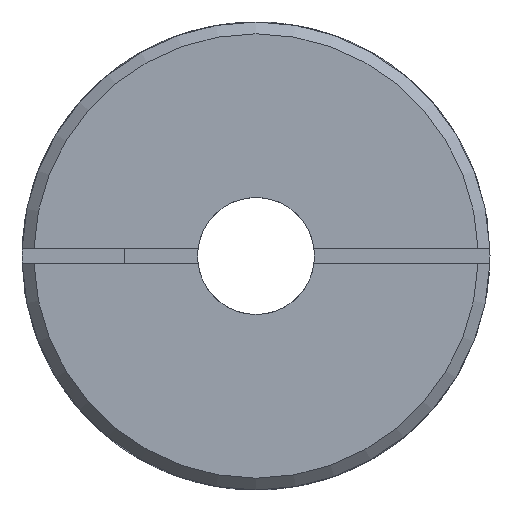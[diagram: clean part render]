
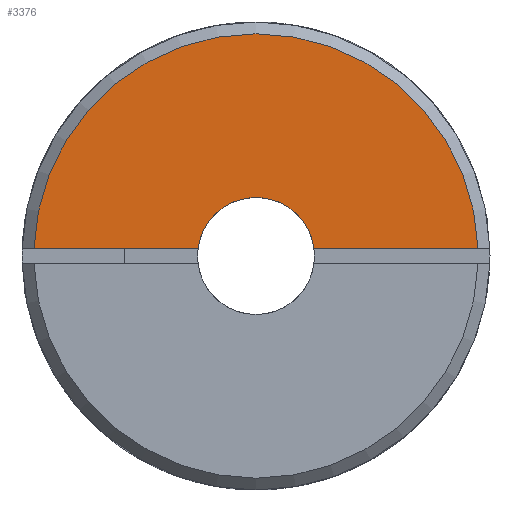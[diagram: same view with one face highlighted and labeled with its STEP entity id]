
A CAD part, left-side view. The second image highlights one B-rep face of the part: STEP entity #3376.
In plain terms, the highlighted planar face has unit normal (-1, 0, 0).
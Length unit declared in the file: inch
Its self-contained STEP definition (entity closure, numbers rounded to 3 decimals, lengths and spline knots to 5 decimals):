
#239 = VERTEX_POINT ( 'NONE', #4289 ) ;
#288 = VERTEX_POINT ( 'NONE', #3622 ) ;
#366 = VECTOR ( 'NONE', #2971, 39.37008 ) ;
#372 = CARTESIAN_POINT ( 'NONE',  ( 315.93456, 187.33162, 0. ) ) ;
#414 = CARTESIAN_POINT ( 'NONE',  ( 315.93456, 190.32051, 0.09843 ) ) ;
#717 = LINE ( 'NONE', #4222, #1406 ) ;
#789 = EDGE_CURVE ( 'NONE', #288, #239, #2023, .T. ) ;
#907 = AXIS2_PLACEMENT_3D ( 'NONE', #372, #3102, #1041 ) ;
#960 = CARTESIAN_POINT ( 'NONE',  ( 315.93456, 187.33162, 0. ) ) ;
#978 = DIRECTION ( 'NONE',  ( 0., 0., -1. ) ) ;
#1041 = DIRECTION ( 'NONE',  ( 0., 0., -1. ) ) ;
#1227 = EDGE_CURVE ( 'NONE', #4296, #2068, #1805, .T. ) ;
#1406 = VECTOR ( 'NONE', #3874, 39.37008 ) ;
#1434 = ORIENTED_EDGE ( 'NONE', *, *, #1957, .F. ) ;
#1516 = FACE_OUTER_BOUND ( 'NONE', #4066, .T. ) ;
#1639 = CARTESIAN_POINT ( 'NONE',  ( 315.93456, 184.34274, 0.09843 ) ) ;
#1643 = CARTESIAN_POINT ( 'NONE',  ( 315.93456, 184.18356, 0.09843 ) ) ;
#1724 = PLANE ( 'NONE',  #907 ) ;
#1805 = CIRCLE ( 'NONE', #2351, 2.99051 ) ;
#1957 = EDGE_CURVE ( 'NONE', #4296, #239, #2471, .T. ) ;
#2023 = CIRCLE ( 'NONE', #3053, 0.7874 ) ;
#2068 = VERTEX_POINT ( 'NONE', #414 ) ;
#2351 = AXIS2_PLACEMENT_3D ( 'NONE', #2918, #3627, #978 ) ;
#2471 = LINE ( 'NONE', #1643, #366 ) ;
#2918 = CARTESIAN_POINT ( 'NONE',  ( 315.93456, 187.33162, 0. ) ) ;
#2971 = DIRECTION ( 'NONE',  ( 0., 1., 0. ) ) ;
#3053 = AXIS2_PLACEMENT_3D ( 'NONE', #960, #3654, #4304 ) ;
#3102 = DIRECTION ( 'NONE',  ( 1., 0., 0. ) ) ;
#3143 = ORIENTED_EDGE ( 'NONE', *, *, #1227, .T. ) ;
#3376 = ADVANCED_FACE ( 'NONE', ( #1516 ), #1724, .F. ) ;
#3622 = CARTESIAN_POINT ( 'NONE',  ( 315.93456, 188.11285, 0.09843 ) ) ;
#3627 = DIRECTION ( 'NONE',  ( -1., 0., 0. ) ) ;
#3654 = DIRECTION ( 'NONE',  ( 1., 0., 0. ) ) ;
#3742 = EDGE_CURVE ( 'NONE', #288, #2068, #717, .T. ) ;
#3874 = DIRECTION ( 'NONE',  ( 0., 1., 0. ) ) ;
#3928 = ORIENTED_EDGE ( 'NONE', *, *, #789, .T. ) ;
#4066 = EDGE_LOOP ( 'NONE', ( #1434, #3143, #4087, #3928 ) ) ;
#4087 = ORIENTED_EDGE ( 'NONE', *, *, #3742, .F. ) ;
#4222 = CARTESIAN_POINT ( 'NONE',  ( 315.93456, 184.18356, 0.09843 ) ) ;
#4289 = CARTESIAN_POINT ( 'NONE',  ( 315.93456, 186.5504, 0.09843 ) ) ;
#4296 = VERTEX_POINT ( 'NONE', #1639 ) ;
#4304 = DIRECTION ( 'NONE',  ( 0., 0., -1. ) ) ;
